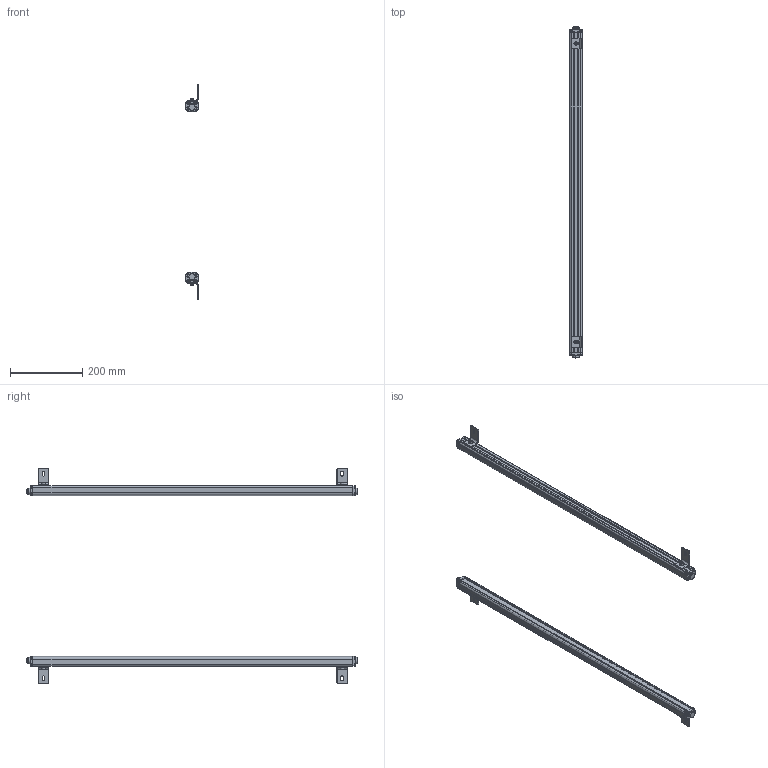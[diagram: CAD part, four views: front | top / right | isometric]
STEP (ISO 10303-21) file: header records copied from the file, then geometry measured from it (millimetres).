
FILE_DESCRIPTION (( 'STEP AP214' ), '1' );
FILE_NAME ('elg2240.STEP', '2018-03-08T12:08:22', ( '' ), ( '' ), 'SwSTEP 2.0', 'SolidWorks 2017', '' );
FILE_SCHEMA (( 'AUTOMOTIVE_DESIGN' ));
Length unit declared in the file: millimetre
Products named in the file (11): lgp-2240; hk-2240; dlx-2240; bz1-2240; elg2240; czzj-2240; glgdg-2240; hkct1-2240; elgdg03-2240; elgw-2240; lx-2240
Assembly tree (40 placements, depth 2):
  elg2240
    elgw-2240  x2
    bz1-2240  x2
    lgp-2240  x2
    glgdg-2240  x2
    elgdg03-2240  x2
    hkct1-2240  x2
    lx-2240  x16
    hk-2240  x4
    czzj-2240  x4
    dlx-2240  x4
Bounding box: 34.7 x 917.6 x 594 mm (x, y, z)
Volume: 642376.1 mm3; surface area: 683897.4 mm2
Topology: 40 solids, 40 shells, 2176 faces, 5696 edges, 3616 vertices
Faces by surface type: cylinder 1040, plane 688, bspline 448
Entity records: 143465 total; most frequent: CARTESIAN_POINT 128366, ORIENTED_EDGE 3188, DIRECTION 2846, EDGE_CURVE 1594, AXIS2_PLACEMENT_3D 1037, VERTEX_POINT 1024, VECTOR 772, LINE 772
